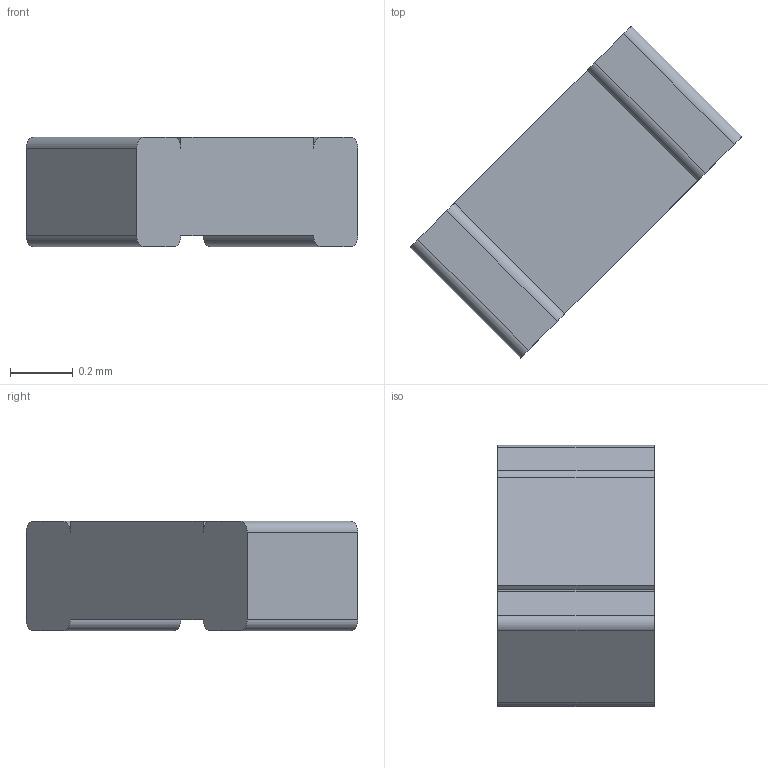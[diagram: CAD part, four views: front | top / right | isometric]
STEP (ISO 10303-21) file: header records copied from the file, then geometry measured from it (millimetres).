
FILE_DESCRIPTION(/* description */ ('STEP AP242 Edition 2','CAx-IF Rec.Pracs.---Representation and Presentation of Product Manufacturing Information (PMI)---4.0---2014-10-13','CAx-IF Rec.Pracs.---3D Tessellated Geometry---0.4---2014-09-14','2;1','CAx-IF Rec.Pracs.---User Defined Attributes---1.5---2016-08-15'),/* implementation_level */ '2;1');
FILE_NAME(/* name */ 'v2_assembly - R_0402_1005Metric_11',/* time_stamp */ '2026-05-19T16:26:06Z',/* author */ (''),/* organization */ (''),/* preprocessor_version */ 'ST-DEVELOPER v20',/* originating_system */ 'ONSHAPE BY PTC INC, 1.215',/* authorisation */ ' ');
FILE_SCHEMA (('AP242_MANAGED_MODEL_BASED_3D_ENGINEERING_MIM_LF { 1 0 10303 442 3 1 4 }'));
Length unit declared in the file: metre
Products named in the file (1): R_0402_1005Metric_11
Bounding box: 1.06 x 1.06 x 0.35 mm (x, y, z)
Volume: 0.2 mm3; surface area: 2 mm2
Topology: 1 solids, 1 shells, 20 faces, 54 edges, 36 vertices
Faces by surface type: plane 12, cylinder 8
Entity records: 686 total; most frequent: DIRECTION 112, CARTESIAN_POINT 111, ORIENTED_EDGE 108, EDGE_CURVE 54, LINE 38, VECTOR 38, AXIS2_PLACEMENT_3D 37, VERTEX_POINT 36
